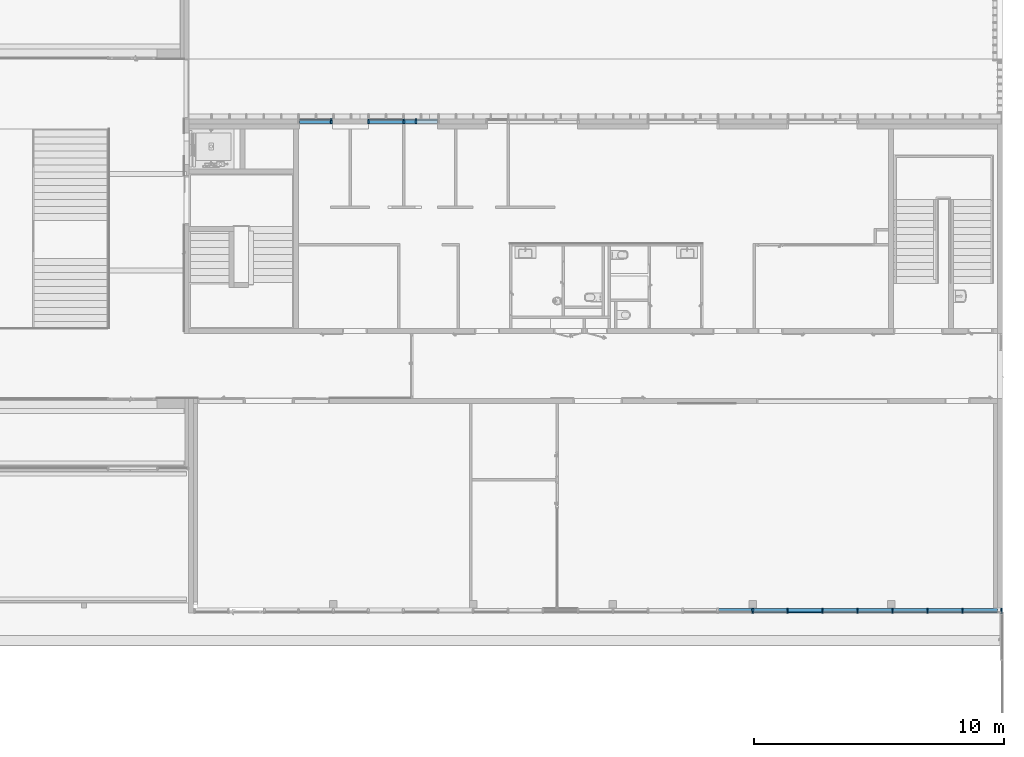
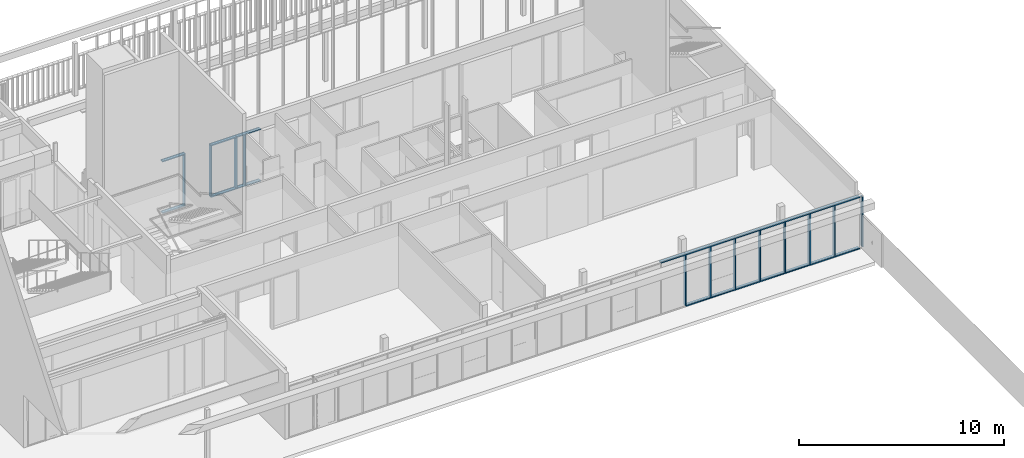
# One storey, part 26 of 240: 33 members, 3 elements without a shape of their own.
"""IFC2X3 building model written with IfcOpenShell, lengths in centimetres."""

from ifc_helpers import new_model, entity, si_unit, converted_unit, derived_unit, direction, frame, origin, place, context, subcontext, project, spatial, polyline, outline, extrude, source, transform, mapped, material, type_object, type_shapes, element, aggregate, save


model = new_model("IFC2X3")

# Units and contexts
model_context = context("Model", 3, precision=0.001, world=origin(), true_north=direction((6.12303176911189e-17, 1.0)))
body_context = subcontext(model_context, "Body", "Model", "MODEL_VIEW")
ifc_project = project(units=[si_unit("LENGTHUNIT", "METRE", prefix="CENTI"), si_unit("AREAUNIT", "SQUARE_METRE"), si_unit("VOLUMEUNIT", "CUBIC_METRE"), converted_unit("PLANEANGLEUNIT", "DEGREE", entity("IfcRatioMeasure", 0.0174532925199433), si_unit("PLANEANGLEUNIT", "RADIAN"), dimensions=[0, 0, 0, 0, 0, 0, 0]), si_unit("MASSUNIT", "GRAM", prefix="KILO"), derived_unit("MASSDENSITYUNIT", [(si_unit("MASSUNIT", "GRAM", prefix="KILO"), 1), (si_unit("LENGTHUNIT", "METRE"), -3)]), si_unit("TIMEUNIT", "SECOND"), si_unit("FREQUENCYUNIT", "HERTZ"), si_unit("THERMODYNAMICTEMPERATUREUNIT", "DEGREE_CELSIUS"), derived_unit("THERMALTRANSMITTANCEUNIT", [(si_unit("MASSUNIT", "GRAM", prefix="KILO"), 1), (si_unit("THERMODYNAMICTEMPERATUREUNIT", "KELVIN"), -1), (si_unit("TIMEUNIT", "SECOND"), -3)]), derived_unit("VOLUMETRICFLOWRATEUNIT", [(si_unit("LENGTHUNIT", "METRE"), 3), (si_unit("TIMEUNIT", "SECOND"), -1)]), si_unit("ELECTRICCURRENTUNIT", "AMPERE"), si_unit("ELECTRICVOLTAGEUNIT", "VOLT"), si_unit("POWERUNIT", "WATT"), si_unit("FORCEUNIT", "NEWTON", prefix="KILO"), si_unit("ILLUMINANCEUNIT", "LUX"), si_unit("LUMINOUSFLUXUNIT", "LUMEN"), si_unit("LUMINOUSINTENSITYUNIT", "CANDELA"), derived_unit("USERDEFINED", [(si_unit("MASSUNIT", "GRAM", prefix="KILO"), -1), (si_unit("LENGTHUNIT", "METRE"), -2), (si_unit("TIMEUNIT", "SECOND"), 3), (si_unit("LUMINOUSFLUXUNIT", "LUMEN"), 1)]), derived_unit("LINEARVELOCITYUNIT", [(si_unit("LENGTHUNIT", "METRE"), 1), (si_unit("TIMEUNIT", "SECOND"), -1)]), si_unit("PRESSUREUNIT", "PASCAL"), derived_unit("USERDEFINED", [(si_unit("LENGTHUNIT", "METRE"), -2), (si_unit("MASSUNIT", "GRAM", prefix="KILO"), 1), (si_unit("TIMEUNIT", "SECOND"), -2)])], contexts=[model_context])

# Site, building, storey
site_placement = place(None, frame((-2781.94577612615, 7442.24238424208, 0.0)))
site = spatial("IfcSite", under=ifc_project, at=site_placement, Name="Default", CompositionType="ELEMENT")
building_placement = place(site_placement, origin())
building = spatial("IfcBuilding", under=site, at=building_placement, CompositionType="ELEMENT")
storey_placement = place(building_placement, origin())
storey = spatial("IfcBuildingStorey", under=building, at=storey_placement, Name="N00 - COO", CompositionType="ELEMENT", Elevation=0.0)

# Curtain wall, members
curtain_wall_type_1 = type_object("IfcCurtainWallType", Name="Mur-rideau:07 - mur rideau trame 140 cm", PredefinedType="NOTDEFINED")
curtain_wall_1_placement = place(building_placement, origin())
curtain_wall_1 = element("IfcCurtainWall", 1, at=curtain_wall_1_placement, inside=storey, type_object=curtain_wall_type_1, Name="Mur-rideau:07 - mur rideau trame 140 cm", ObjectType="Mur-rideau:07 - mur rideau trame 140 cm")
ifc_material = material(Name="Aluminium")
member_type_1 = type_object("IfcMemberType", Name="150 x 25mm Détails", PredefinedType="MEMBER")
shared_shape_1 = source(origin(), body_context, "Body", "SweptSolid", [
    extrude(outline(polyline([(-5.6666666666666, -3.24999999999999), (-3.66666666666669, -3.24999999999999), (-3.66666666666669, -0.868749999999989), (-0.166666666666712, -0.868749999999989), (-0.166666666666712, -3.25000000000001), (13.3333333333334, -3.25000000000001), (13.3333333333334, 3.24999999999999), (-0.16666666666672, 3.24999999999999), (-0.16666666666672, 0.868749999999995), (-3.66666666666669, 0.868749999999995), (-3.66666666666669, 3.25), (-5.6666666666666, 3.25), (-5.6666666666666, -3.24999999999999)])), frame((-3.24999999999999, -1.96666666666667, -299.5), z_axis=(0.0, 0.0, 1.0), x_axis=(0.0, -1.0, 0.0)), (0.0, 0.0, 1.0), 299.5),
])
type_shapes(member_type_1, [shared_shape_1])
member_1_placement = place(building_placement, frame((-390.499882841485, -3046.51349958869, 6.49999999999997), z_axis=(0.0, 0.0, -1.0), x_axis=(1.0, 0.0, 0.0)))
member_1 = element("IfcMember", 2, at=member_1_placement, type_object=member_type_1, material=ifc_material, Name="Meneau rectangulaire:150 x 25mm Détails", ObjectType="Meneau rectangulaire:150 x 25mm Détails", context=body_context, shape_type="MappedRepresentation", body=[
    mapped(shared_shape_1, transform((0.0, 0.0, 0.0), scale=1.0)),
])
member_type_2 = type_object("IfcMemberType", Name="150 x 25mm Détails", PredefinedType="MEMBER")
shared_shape_2 = source(origin(), body_context, "Body", "SweptSolid", [
    extrude(outline(polyline([(-5.6666666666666, -3.24999999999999), (-3.66666666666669, -3.24999999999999), (-3.66666666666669, -0.868749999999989), (-0.166666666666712, -0.868749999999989), (-0.166666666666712, -3.25000000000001), (13.3333333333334, -3.25000000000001), (13.3333333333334, 3.24999999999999), (-0.16666666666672, 3.24999999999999), (-0.16666666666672, 0.868749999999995), (-3.66666666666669, 0.868749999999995), (-3.66666666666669, 3.25), (-5.6666666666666, 3.25), (-5.6666666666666, -3.24999999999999)])), frame((-3.24999999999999, -1.96666666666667, -140.0), z_axis=(0.0, 0.0, 1.0), x_axis=(0.0, -1.0, 0.0)), (0.0, 0.0, 1.0), 140.000000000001),
])
type_shapes(member_type_2, [shared_shape_2])
member_2_placement = place(building_placement, frame((-1390.299882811, -3046.51349958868, 312.5), z_axis=(1.0, 0.0, 0.0), x_axis=(0.0, 0.0, 1.0)))
member_2 = element("IfcMember", 3, at=member_2_placement, type_object=member_type_2, material=ifc_material, Name="Meneau rectangulaire:150 x 25mm Détails", ObjectType="Meneau rectangulaire:150 x 25mm Détails", context=body_context, shape_type="MappedRepresentation", body=[
    mapped(shared_shape_2, transform((0.0, 0.0, 0.0), scale=1.0)),
])
member_3_placement = place(building_placement, frame((-1110.299882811, -3046.51349958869, 312.5), z_axis=(1.0, 0.0, 0.0), x_axis=(0.0, 0.0, 1.0)))
member_3 = element("IfcMember", 4, at=member_3_placement, type_object=member_type_2, material=ifc_material, Name="Meneau rectangulaire:150 x 25mm Détails", ObjectType="Meneau rectangulaire:150 x 25mm Détails", context=body_context, shape_type="MappedRepresentation", body=[
    mapped(shared_shape_2, transform((0.0, 0.0, 0.0), scale=1.0)),
])
member_4_placement = place(building_placement, frame((-830.299882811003, -3046.51349958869, 312.5), z_axis=(1.0, 0.0, 0.0), x_axis=(0.0, 0.0, 1.0)))
member_4 = element("IfcMember", 5, at=member_4_placement, type_object=member_type_2, material=ifc_material, Name="Meneau rectangulaire:150 x 25mm Détails", ObjectType="Meneau rectangulaire:150 x 25mm Détails", context=body_context, shape_type="MappedRepresentation", body=[
    mapped(shared_shape_2, transform((0.0, 0.0, 0.0), scale=1.0)),
])
member_5_placement = place(building_placement, frame((-690.299882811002, -3046.51349958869, 312.5), z_axis=(1.0, 0.0, 0.0), x_axis=(0.0, 0.0, 1.0)))
member_5 = element("IfcMember", 6, at=member_5_placement, type_object=member_type_2, material=ifc_material, Name="Meneau rectangulaire:150 x 25mm Détails", ObjectType="Meneau rectangulaire:150 x 25mm Détails", context=body_context, shape_type="MappedRepresentation", body=[
    mapped(shared_shape_2, transform((0.0, 0.0, 0.0), scale=1.0)),
])
member_6_placement = place(building_placement, frame((-550.299882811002, -3046.51349958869, 312.5), z_axis=(1.0, 0.0, 0.0), x_axis=(0.0, 0.0, 1.0)))
member_6 = element("IfcMember", 7, at=member_6_placement, type_object=member_type_2, material=ifc_material, Name="Meneau rectangulaire:150 x 25mm Détails", ObjectType="Meneau rectangulaire:150 x 25mm Détails", context=body_context, shape_type="MappedRepresentation", body=[
    mapped(shared_shape_2, transform((0.0, 0.0, 0.0), scale=1.0)),
])
member_7_placement = place(building_placement, frame((-1250.299882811, -3046.51349958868, 312.5), z_axis=(1.0, 0.0, 0.0), x_axis=(0.0, 0.0, 1.0)))
member_7 = element("IfcMember", 8, at=member_7_placement, type_object=member_type_2, material=ifc_material, Name="Meneau rectangulaire:150 x 25mm Détails", ObjectType="Meneau rectangulaire:150 x 25mm Détails", context=body_context, shape_type="MappedRepresentation", body=[
    mapped(shared_shape_2, transform((0.0, 0.0, 0.0), scale=1.0)),
])
member_8_placement = place(building_placement, frame((-970.299882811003, -3046.51349958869, 312.5), z_axis=(1.0, 0.0, 0.0), x_axis=(0.0, 0.0, 1.0)))
member_8 = element("IfcMember", 9, at=member_8_placement, type_object=member_type_2, material=ifc_material, Name="Meneau rectangulaire:150 x 25mm Détails", ObjectType="Meneau rectangulaire:150 x 25mm Détails", context=body_context, shape_type="MappedRepresentation", body=[
    mapped(shared_shape_2, transform((0.0, 0.0, 0.0), scale=1.0)),
])
member_type_3 = type_object("IfcMemberType", Name="150 x 25mm Détails", PredefinedType="MEMBER")
shared_shape_3 = source(origin(), body_context, "Body", "SweptSolid", [
    extrude(outline(polyline([(-5.66666666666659, -3.25), (-3.66666666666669, -3.25), (-3.66666666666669, -0.868749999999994), (-0.166666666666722, -0.868749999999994), (-0.166666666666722, -3.25000000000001), (13.3333333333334, -3.24999999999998), (13.3333333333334, 3.25000000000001), (-0.166666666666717, 3.25000000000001), (-0.166666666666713, 0.868749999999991), (-3.66666666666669, 0.868749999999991), (-3.66666666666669, 3.24999999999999), (-5.66666666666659, 3.24999999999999), (-5.66666666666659, -3.25)])), frame((-3.24999999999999, -1.96666666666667, -140.0), z_axis=(0.0, 0.0, 1.0), x_axis=(0.0, -1.0, 0.0)), (0.0, 0.0, 1.0), 140.000000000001),
])
type_shapes(member_type_3, [shared_shape_3])
member_9_placement = place(building_placement, frame((-1390.299882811, -3046.51349958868, 0.0), z_axis=(-1.0, 0.0, 0.0), x_axis=(0.0, 0.0, -1.0)))
member_9 = element("IfcMember", 10, at=member_9_placement, type_object=member_type_3, material=ifc_material, Name="Meneau rectangulaire:150 x 25mm Détails", ObjectType="Meneau rectangulaire:150 x 25mm Détails", context=body_context, shape_type="MappedRepresentation", body=[
    mapped(shared_shape_3, transform((0.0, 0.0, 0.0), scale=1.0)),
])
member_10_placement = place(building_placement, frame((-1110.299882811, -3046.51349958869, 0.0), z_axis=(-1.0, 0.0, 0.0), x_axis=(0.0, 0.0, -1.0)))
member_10 = element("IfcMember", 11, at=member_10_placement, type_object=member_type_3, material=ifc_material, Name="Meneau rectangulaire:150 x 25mm Détails", ObjectType="Meneau rectangulaire:150 x 25mm Détails", context=body_context, shape_type="MappedRepresentation", body=[
    mapped(shared_shape_3, transform((0.0, 0.0, 0.0), scale=1.0)),
])
member_11_placement = place(building_placement, frame((-830.299882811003, -3046.51349958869, 0.0), z_axis=(-1.0, 0.0, 0.0), x_axis=(0.0, 0.0, -1.0)))
member_11 = element("IfcMember", 12, at=member_11_placement, type_object=member_type_3, material=ifc_material, Name="Meneau rectangulaire:150 x 25mm Détails", ObjectType="Meneau rectangulaire:150 x 25mm Détails", context=body_context, shape_type="MappedRepresentation", body=[
    mapped(shared_shape_3, transform((0.0, 0.0, 0.0), scale=1.0)),
])
member_12_placement = place(building_placement, frame((-690.299882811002, -3046.51349958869, 0.0), z_axis=(-1.0, 0.0, 0.0), x_axis=(0.0, 0.0, -1.0)))
member_12 = element("IfcMember", 13, at=member_12_placement, type_object=member_type_3, material=ifc_material, Name="Meneau rectangulaire:150 x 25mm Détails", ObjectType="Meneau rectangulaire:150 x 25mm Détails", context=body_context, shape_type="MappedRepresentation", body=[
    mapped(shared_shape_3, transform((0.0, 0.0, 0.0), scale=1.0)),
])
member_13_placement = place(building_placement, frame((-1250.299882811, -3046.51349958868, 0.0), z_axis=(-1.0, 0.0, 0.0), x_axis=(0.0, 0.0, -1.0)))
member_13 = element("IfcMember", 14, at=member_13_placement, type_object=member_type_3, material=ifc_material, Name="Meneau rectangulaire:150 x 25mm Détails", ObjectType="Meneau rectangulaire:150 x 25mm Détails", context=body_context, shape_type="MappedRepresentation", body=[
    mapped(shared_shape_3, transform((0.0, 0.0, 0.0), scale=1.0)),
])
member_14_placement = place(building_placement, frame((-970.299882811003, -3046.51349958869, 0.0), z_axis=(-1.0, 0.0, 0.0), x_axis=(0.0, 0.0, -1.0)))
member_14 = element("IfcMember", 15, at=member_14_placement, type_object=member_type_3, material=ifc_material, Name="Meneau rectangulaire:150 x 25mm Détails", ObjectType="Meneau rectangulaire:150 x 25mm Détails", context=body_context, shape_type="MappedRepresentation", body=[
    mapped(shared_shape_3, transform((0.0, 0.0, 0.0), scale=1.0)),
])
member_type_4 = type_object("IfcMemberType", Name="150 x 25mm Détails", PredefinedType="MEMBER")
shared_shape_4 = source(origin(), body_context, "Body", "SweptSolid", [
    extrude(outline(polyline([(-5.6666666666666, -3.24999999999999), (-3.66666666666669, -3.24999999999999), (-3.66666666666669, -0.86874999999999), (-0.166666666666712, -0.86874999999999), (-0.166666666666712, -3.25000000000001), (13.3333333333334, -3.25000000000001), (13.3333333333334, 3.24999999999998), (-0.16666666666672, 3.24999999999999), (-0.16666666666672, 0.868749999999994), (-3.66666666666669, 0.868749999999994), (-3.66666666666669, 3.25), (-5.6666666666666, 3.25), (-5.6666666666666, -3.24999999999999)])), frame((0.0, -1.96666666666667, -299.5), z_axis=(0.0, 0.0, 1.0), x_axis=(0.0, -1.0, 0.0)), (0.0, 0.0, 1.0), 299.5),
])
type_shapes(member_type_4, [shared_shape_4])
member_15_placement = place(building_placement, frame((-1390.299882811, -3046.51349958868, 6.49999999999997), z_axis=(0.0, 0.0, -1.0), x_axis=(1.0, 0.0, 0.0)))
member_15 = element("IfcMember", 16, at=member_15_placement, type_object=member_type_4, material=ifc_material, Name="Meneau rectangulaire:150 x 25mm Détails", ObjectType="Meneau rectangulaire:150 x 25mm Détails", context=body_context, shape_type="MappedRepresentation", body=[
    mapped(shared_shape_4, transform((0.0, 0.0, 0.0), scale=1.0)),
])
member_16_placement = place(building_placement, frame((-1250.299882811, -3046.51349958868, 6.49999999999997), z_axis=(0.0, 0.0, -1.0), x_axis=(1.0, 0.0, 0.0)))
member_16 = element("IfcMember", 17, at=member_16_placement, type_object=member_type_4, material=ifc_material, Name="Meneau rectangulaire:150 x 25mm Détails", ObjectType="Meneau rectangulaire:150 x 25mm Détails", context=body_context, shape_type="MappedRepresentation", body=[
    mapped(shared_shape_4, transform((0.0, 0.0, 0.0), scale=1.0)),
])
member_17_placement = place(building_placement, frame((-1110.299882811, -3046.51349958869, 6.49999999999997), z_axis=(0.0, 0.0, -1.0), x_axis=(1.0, 0.0, 0.0)))
member_17 = element("IfcMember", 18, at=member_17_placement, type_object=member_type_4, material=ifc_material, Name="Meneau rectangulaire:150 x 25mm Détails", ObjectType="Meneau rectangulaire:150 x 25mm Détails", context=body_context, shape_type="MappedRepresentation", body=[
    mapped(shared_shape_4, transform((0.0, 0.0, 0.0), scale=1.0)),
])
member_18_placement = place(building_placement, frame((-970.299882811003, -3046.51349958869, 6.49999999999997), z_axis=(0.0, 0.0, -1.0), x_axis=(1.0, 0.0, 0.0)))
member_18 = element("IfcMember", 19, at=member_18_placement, type_object=member_type_4, material=ifc_material, Name="Meneau rectangulaire:150 x 25mm Détails", ObjectType="Meneau rectangulaire:150 x 25mm Détails", context=body_context, shape_type="MappedRepresentation", body=[
    mapped(shared_shape_4, transform((0.0, 0.0, 0.0), scale=1.0)),
])
member_19_placement = place(building_placement, frame((-830.299882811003, -3046.51349958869, 6.49999999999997), z_axis=(0.0, 0.0, -1.0), x_axis=(1.0, 0.0, 0.0)))
member_19 = element("IfcMember", 20, at=member_19_placement, type_object=member_type_4, material=ifc_material, Name="Meneau rectangulaire:150 x 25mm Détails", ObjectType="Meneau rectangulaire:150 x 25mm Détails", context=body_context, shape_type="MappedRepresentation", body=[
    mapped(shared_shape_4, transform((0.0, 0.0, 0.0), scale=1.0)),
])
member_20_placement = place(building_placement, frame((-690.299882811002, -3046.51349958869, 6.49999999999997), z_axis=(0.0, 0.0, -1.0), x_axis=(1.0, 0.0, 0.0)))
member_20 = element("IfcMember", 21, at=member_20_placement, type_object=member_type_4, material=ifc_material, Name="Meneau rectangulaire:150 x 25mm Détails", ObjectType="Meneau rectangulaire:150 x 25mm Détails", context=body_context, shape_type="MappedRepresentation", body=[
    mapped(shared_shape_4, transform((0.0, 0.0, 0.0), scale=1.0)),
])
member_21_placement = place(building_placement, frame((-550.299882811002, -3046.51349958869, 6.49999999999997), z_axis=(0.0, 0.0, -1.0), x_axis=(1.0, 0.0, 0.0)))
member_21 = element("IfcMember", 22, at=member_21_placement, type_object=member_type_4, material=ifc_material, Name="Meneau rectangulaire:150 x 25mm Détails", ObjectType="Meneau rectangulaire:150 x 25mm Détails", context=body_context, shape_type="MappedRepresentation", body=[
    mapped(shared_shape_4, transform((0.0, 0.0, 0.0), scale=1.0)),
])

curtain_wall_type_2 = type_object("IfcCurtainWallType", Name="Mur-rideau:07 - mur rideau trame 280 cm", PredefinedType="NOTDEFINED")
curtain_wall_2_placement = place(building_placement, origin())
curtain_wall_2 = element("IfcCurtainWall", 23, at=curtain_wall_2_placement, inside=storey, type_object=curtain_wall_type_2, Name="Mur-rideau:07 - mur rideau trame 280 cm", ObjectType="Mur-rideau:07 - mur rideau trame 280 cm")
member_type_5 = type_object("IfcMemberType", Name="150 x 25mm Détails", PredefinedType="MEMBER")
shared_shape_5 = source(origin(), body_context, "Body", "SweptSolid", [
    extrude(outline(polyline([(-13.3333333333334, -3.24999999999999), (0.166666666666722, -3.24999999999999), (0.166666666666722, -0.868749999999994), (3.66666666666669, -0.868749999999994), (3.66666666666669, -3.25), (5.66666666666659, -3.25), (5.66666666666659, 3.24999999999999), (3.66666666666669, 3.24999999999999), (3.66666666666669, 0.86874999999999), (0.166666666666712, 0.86874999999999), (0.166666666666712, 3.25000000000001), (-13.3333333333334, 3.25000000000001), (-13.3333333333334, -3.24999999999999)])), frame((-3.24999999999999, 1.96666666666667, -124.249999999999), z_axis=(0.0, 0.0, 1.0), x_axis=(0.0, -1.0, 0.0)), (0.0, 0.0, 1.0), 124.249999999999),
])
type_shapes(member_type_5, [shared_shape_5])
member_22_placement = place(building_placement, frame((-3206.04988284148, -1073.7999999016, 0.0), z_axis=(-1.0, 0.0, 0.0), x_axis=(0.0, 0.0, -1.0)))
member_22 = element("IfcMember", 24, at=member_22_placement, type_object=member_type_5, material=ifc_material, Name="Meneau rectangulaire:150 x 25mm Détails", ObjectType="Meneau rectangulaire:150 x 25mm Détails", context=body_context, shape_type="MappedRepresentation", body=[
    mapped(shared_shape_5, transform((0.0, 0.0, 0.0), scale=1.0)),
])
member_type_6 = type_object("IfcMemberType", Name="150 x 25mm Détails", PredefinedType="MEMBER")
shared_shape_6 = source(origin(), body_context, "Body", "SweptSolid", [
    extrude(outline(polyline([(-13.3333333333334, -3.25000000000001), (0.166666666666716, -3.25000000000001), (0.166666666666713, -0.86874999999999), (3.66666666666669, -0.86874999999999), (3.66666666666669, -3.24999999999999), (5.66666666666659, -3.24999999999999), (5.66666666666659, 3.25), (3.66666666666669, 3.25), (3.66666666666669, 0.868749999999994), (0.166666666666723, 0.868749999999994), (0.166666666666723, 3.25000000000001), (-13.3333333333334, 3.24999999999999), (-13.3333333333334, -3.25000000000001)])), frame((-3.24999999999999, 1.96666666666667, -312.5), z_axis=(0.0, 0.0, 1.0), x_axis=(0.0, -1.0, 0.0)), (0.0, 0.0, 1.0), 312.5),
])
type_shapes(member_type_6, [shared_shape_6])
member_23_placement = place(building_placement, frame((-3075.29988284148, -1073.7999999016, 0.0), z_axis=(0.0, 0.0, -1.0), x_axis=(1.0, 0.0, 0.0)))
member_23 = element("IfcMember", 25, at=member_23_placement, type_object=member_type_6, material=ifc_material, Name="Meneau rectangulaire:150 x 25mm Détails", ObjectType="Meneau rectangulaire:150 x 25mm Détails", context=body_context, shape_type="MappedRepresentation", body=[
    mapped(shared_shape_6, transform((0.0, 0.0, 0.0), scale=1.0)),
])
member_type_7 = type_object("IfcMemberType", Name="150 x 25mm Détails", PredefinedType="MEMBER")
shared_shape_7 = source(origin(), body_context, "Body", "SweptSolid", [
    extrude(outline(polyline([(-13.3333333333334, -3.25000000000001), (0.166666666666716, -3.25000000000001), (0.166666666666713, -0.86874999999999), (3.66666666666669, -0.86874999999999), (3.66666666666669, -3.24999999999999), (5.66666666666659, -3.24999999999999), (5.66666666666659, 3.25), (3.66666666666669, 3.25), (3.66666666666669, 0.868749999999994), (0.166666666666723, 0.868749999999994), (0.166666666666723, 3.25000000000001), (-13.3333333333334, 3.24999999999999), (-13.3333333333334, -3.25000000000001)])), frame((-3.24999999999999, 1.96666666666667, -124.249999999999), z_axis=(0.0, 0.0, 1.0), x_axis=(0.0, -1.0, 0.0)), (0.0, 0.0, 1.0), 124.249999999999),
])
type_shapes(member_type_7, [shared_shape_7])
member_24_placement = place(building_placement, frame((-3081.79988284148, -1073.7999999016, 312.5), z_axis=(1.0, 0.0, 0.0), x_axis=(0.0, 0.0, 1.0)))
member_24 = element("IfcMember", 26, at=member_24_placement, type_object=member_type_7, material=ifc_material, Name="Meneau rectangulaire:150 x 25mm Détails", ObjectType="Meneau rectangulaire:150 x 25mm Détails", context=body_context, shape_type="MappedRepresentation", body=[
    mapped(shared_shape_7, transform((0.0, 0.0, 0.0), scale=1.0)),
])
aggregate(curtain_wall_2, [member_22, member_23, member_24])

curtain_wall_3_placement = place(building_placement, origin())
curtain_wall_3 = element("IfcCurtainWall", 27, at=curtain_wall_3_placement, inside=storey, type_object=curtain_wall_type_2, Name="Mur-rideau:07 - mur rideau trame 280 cm", ObjectType="Mur-rideau:07 - mur rideau trame 280 cm")
member_type_8 = type_object("IfcMemberType", Name="150 x 25mm Détails", PredefinedType="MEMBER")
shared_shape_8 = source(origin(), body_context, "Body", "SweptSolid", [
    extrude(outline(polyline([(-13.3333333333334, -3.24999999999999), (0.166666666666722, -3.24999999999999), (0.166666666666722, -0.868749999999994), (3.66666666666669, -0.868749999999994), (3.66666666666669, -3.25), (5.66666666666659, -3.25), (5.66666666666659, 3.24999999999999), (3.66666666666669, 3.24999999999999), (3.66666666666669, 0.86874999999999), (0.166666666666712, 0.86874999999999), (0.166666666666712, 3.25000000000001), (-13.3333333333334, 3.25000000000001), (-13.3333333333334, -3.24999999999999)])), frame((-3.24999999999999, 1.96666666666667, -144.249996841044), z_axis=(0.0, 0.0, 1.0), x_axis=(0.0, -1.0, 0.0)), (0.0, 0.0, 1.0), 144.249996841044),
])
type_shapes(member_type_8, [shared_shape_8])
member_25_placement = place(building_placement, frame((-2932.54988284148, -1073.7999999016, 0.0), z_axis=(-1.0, 0.0, 0.0), x_axis=(0.0, 0.0, -1.0)))
member_25 = element("IfcMember", 28, at=member_25_placement, type_object=member_type_8, material=ifc_material, Name="Meneau rectangulaire:150 x 25mm Détails", ObjectType="Meneau rectangulaire:150 x 25mm Détails", context=body_context, shape_type="MappedRepresentation", body=[
    mapped(shared_shape_8, transform((0.0, 0.0, 0.0), scale=1.0)),
])
member_type_9 = type_object("IfcMemberType", Name="150 x 25mm Détails", PredefinedType="MEMBER")
shared_shape_9 = source(origin(), body_context, "Body", "SweptSolid", [
    extrude(outline(polyline([(-13.3333333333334, -3.24999999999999), (0.166666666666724, -3.24999999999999), (0.166666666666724, -0.868749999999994), (3.66666666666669, -0.868749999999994), (3.66666666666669, -3.25), (5.6666666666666, -3.25), (5.6666666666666, 3.24999999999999), (3.66666666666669, 3.24999999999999), (3.66666666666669, 0.86874999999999), (0.166666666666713, 0.86874999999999), (0.166666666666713, 3.25000000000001), (-13.3333333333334, 3.25000000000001), (-13.3333333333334, -3.24999999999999)])), frame((-3.24999999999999, 1.96666666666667, -299.5), z_axis=(0.0, 0.0, 1.0), x_axis=(0.0, -1.0, 0.0)), (0.0, 0.0, 1.0), 299.5),
])
type_shapes(member_type_9, [shared_shape_9])
member_26_placement = place(building_placement, frame((-2932.54988284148, -1073.7999999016, 306.0), z_axis=(0.0, 0.0, 1.0), x_axis=(-1.0, 0.0, 0.0)))
member_26 = element("IfcMember", 29, at=member_26_placement, type_object=member_type_9, material=ifc_material, Name="Meneau rectangulaire:150 x 25mm Détails", ObjectType="Meneau rectangulaire:150 x 25mm Détails", context=body_context, shape_type="MappedRepresentation", body=[
    mapped(shared_shape_9, transform((0.0, 0.0, 0.0), scale=1.0)),
])
member_type_10 = type_object("IfcMemberType", Name="150 x 25mm Détails", PredefinedType="MEMBER")
shared_shape_10 = source(origin(), body_context, "Body", "SweptSolid", [
    extrude(outline(polyline([(-13.3333333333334, -3.24999999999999), (0.166666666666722, -3.24999999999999), (0.166666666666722, -0.868749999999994), (3.66666666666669, -0.868749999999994), (3.66666666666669, -3.25), (5.66666666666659, -3.25), (5.66666666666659, 3.24999999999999), (3.66666666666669, 3.24999999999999), (3.66666666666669, 0.86874999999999), (0.166666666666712, 0.86874999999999), (0.166666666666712, 3.25000000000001), (-13.3333333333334, 3.25000000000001), (-13.3333333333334, -3.24999999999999)])), frame((-3.24999999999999, 1.96666666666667, -135.750003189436), z_axis=(0.0, 0.0, 1.0), x_axis=(0.0, -1.0, 0.0)), (0.0, 0.0, 1.0), 135.750003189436),
])
type_shapes(member_type_10, [shared_shape_10])
member_27_placement = place(building_placement, frame((-2788.29988600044, -1073.7999999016, 0.0), z_axis=(-1.0, 0.0, 0.0), x_axis=(0.0, 0.0, -1.0)))
member_27 = element("IfcMember", 30, at=member_27_placement, type_object=member_type_10, material=ifc_material, Name="Meneau rectangulaire:150 x 25mm Détails", ObjectType="Meneau rectangulaire:150 x 25mm Détails", context=body_context, shape_type="MappedRepresentation", body=[
    mapped(shared_shape_10, transform((0.0, 0.0, 0.0), scale=1.0)),
])
member_type_11 = type_object("IfcMemberType", Name="150 x 25mm Détails", PredefinedType="MEMBER")
shared_shape_11 = source(origin(), body_context, "Body", "SweptSolid", [
    extrude(outline(polyline([(-13.3333333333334, -3.25000000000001), (0.166666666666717, -3.25000000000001), (0.166666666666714, -0.86874999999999), (3.66666666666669, -0.86874999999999), (3.66666666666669, -3.24999999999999), (5.6666666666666, -3.24999999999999), (5.6666666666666, 3.25), (3.66666666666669, 3.25), (3.66666666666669, 0.868749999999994), (0.166666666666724, 0.868749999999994), (0.166666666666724, 3.25000000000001), (-13.3333333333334, 3.24999999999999), (-13.3333333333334, -3.25000000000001)])), frame((0.0, 1.96666666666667, -299.5), z_axis=(0.0, 0.0, 1.0), x_axis=(0.0, -1.0, 0.0)), (0.0, 0.0, 1.0), 299.5),
])
type_shapes(member_type_11, [shared_shape_11])
member_28_placement = place(building_placement, frame((-2788.29988600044, -1073.7999999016, 6.49999999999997), z_axis=(0.0, 0.0, -1.0), x_axis=(1.0, 0.0, 0.0)))
member_28 = element("IfcMember", 31, at=member_28_placement, type_object=member_type_11, material=ifc_material, Name="Meneau rectangulaire:150 x 25mm Détails", ObjectType="Meneau rectangulaire:150 x 25mm Détails", context=body_context, shape_type="MappedRepresentation", body=[
    mapped(shared_shape_11, transform((0.0, 0.0, 0.0), scale=1.0)),
])
member_type_12 = type_object("IfcMemberType", Name="150 x 25mm Détails", PredefinedType="MEMBER")
shared_shape_12 = source(origin(), body_context, "Body", "SweptSolid", [
    extrude(outline(polyline([(-13.3333333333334, -3.25000000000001), (0.166666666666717, -3.25000000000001), (0.166666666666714, -0.86874999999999), (3.66666666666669, -0.86874999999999), (3.66666666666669, -3.24999999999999), (5.6666666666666, -3.24999999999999), (5.6666666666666, 3.25), (3.66666666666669, 3.25), (3.66666666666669, 0.868749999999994), (0.166666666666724, 0.868749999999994), (0.166666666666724, 3.25000000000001), (-13.3333333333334, 3.24999999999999), (-13.3333333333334, -3.25000000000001)])), frame((-3.24999999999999, 1.96666666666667, -299.5), z_axis=(0.0, 0.0, 1.0), x_axis=(0.0, -1.0, 0.0)), (0.0, 0.0, 1.0), 299.5),
])
type_shapes(member_type_12, [shared_shape_12])
member_29_placement = place(building_placement, frame((-2736.04988284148, -1073.7999999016, 6.49999999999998), z_axis=(0.0, 0.0, -1.0), x_axis=(1.0, 0.0, 0.0)))
member_29 = element("IfcMember", 32, at=member_29_placement, type_object=member_type_12, material=ifc_material, Name="Meneau rectangulaire:150 x 25mm Détails", ObjectType="Meneau rectangulaire:150 x 25mm Détails", context=body_context, shape_type="MappedRepresentation", body=[
    mapped(shared_shape_12, transform((0.0, 0.0, 0.0), scale=1.0)),
])
member_type_13 = type_object("IfcMemberType", Name="150 x 25mm Détails", PredefinedType="MEMBER")
shared_shape_13 = source(origin(), body_context, "Body", "SweptSolid", [
    extrude(outline(polyline([(-13.3333333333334, -3.25000000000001), (0.166666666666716, -3.25000000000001), (0.166666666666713, -0.86874999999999), (3.66666666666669, -0.86874999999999), (3.66666666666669, -3.24999999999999), (5.66666666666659, -3.24999999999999), (5.66666666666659, 3.25), (3.66666666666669, 3.25), (3.66666666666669, 0.868749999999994), (0.166666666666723, 0.868749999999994), (0.166666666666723, 3.25000000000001), (-13.3333333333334, 3.24999999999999), (-13.3333333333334, -3.25000000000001)])), frame((-3.24999999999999, 1.96666666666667, -144.249996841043), z_axis=(0.0, 0.0, 1.0), x_axis=(0.0, -1.0, 0.0)), (0.0, 0.0, 1.0), 144.249996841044),
])
type_shapes(member_type_13, [shared_shape_13])
member_30_placement = place(building_placement, frame((-2788.29988600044, -1073.7999999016, 312.5), z_axis=(1.0, 0.0, 0.0), x_axis=(0.0, 0.0, 1.0)))
member_30 = element("IfcMember", 33, at=member_30_placement, type_object=member_type_13, material=ifc_material, Name="Meneau rectangulaire:150 x 25mm Détails", ObjectType="Meneau rectangulaire:150 x 25mm Détails", context=body_context, shape_type="MappedRepresentation", body=[
    mapped(shared_shape_13, transform((0.0, 0.0, 0.0), scale=1.0)),
])
member_type_14 = type_object("IfcMemberType", Name="150 x 25mm Détails", PredefinedType="MEMBER")
shared_shape_14 = source(origin(), body_context, "Body", "SweptSolid", [
    extrude(outline(polyline([(-13.3333333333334, -3.25000000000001), (0.166666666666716, -3.25000000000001), (0.166666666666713, -0.86874999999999), (3.66666666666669, -0.86874999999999), (3.66666666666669, -3.24999999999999), (5.66666666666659, -3.24999999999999), (5.66666666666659, 3.25), (3.66666666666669, 3.25), (3.66666666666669, 0.868749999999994), (0.166666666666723, 0.868749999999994), (0.166666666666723, 3.25000000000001), (-13.3333333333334, 3.24999999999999), (-13.3333333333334, -3.25000000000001)])), frame((-3.24999999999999, 1.96666666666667, -135.750003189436), z_axis=(0.0, 0.0, 1.0), x_axis=(0.0, -1.0, 0.0)), (0.0, 0.0, 1.0), 135.750003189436),
])
type_shapes(member_type_14, [shared_shape_14])
member_31_placement = place(building_placement, frame((-2652.549882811, -1073.7999999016, 312.5), z_axis=(1.0, 0.0, 0.0), x_axis=(0.0, 0.0, 1.0)))
member_31 = element("IfcMember", 34, at=member_31_placement, type_object=member_type_14, material=ifc_material, Name="Meneau rectangulaire:150 x 25mm Détails", ObjectType="Meneau rectangulaire:150 x 25mm Détails", context=body_context, shape_type="MappedRepresentation", body=[
    mapped(shared_shape_14, transform((0.0, 0.0, 0.0), scale=1.0)),
])
aggregate(curtain_wall_3, [member_25, member_26, member_27, member_28, member_29, member_30, member_31])

# Member
member_type_15 = type_object("IfcMemberType", Name="150 x 25mm Détails", PredefinedType="MEMBER")
shared_shape_15 = source(origin(), body_context, "Body", "SweptSolid", [
    extrude(outline(polyline([(-5.66666666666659, -3.25), (-3.66666666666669, -3.25), (-3.66666666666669, -0.868749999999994), (-0.166666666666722, -0.868749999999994), (-0.166666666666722, -3.25000000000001), (13.3333333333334, -3.24999999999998), (13.3333333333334, 3.25000000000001), (-0.166666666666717, 3.25000000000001), (-0.166666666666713, 0.868749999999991), (-3.66666666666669, 0.868749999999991), (-3.66666666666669, 3.24999999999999), (-5.66666666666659, 3.24999999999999), (-5.66666666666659, -3.25)])), frame((-3.24999999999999, -1.96666666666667, -140.0), z_axis=(0.0, 0.0, 1.0), x_axis=(0.0, -1.0, 0.0)), (0.0, 0.0, 1.0), 140.000000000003),
])
type_shapes(member_type_15, [shared_shape_15])
member_32_placement = place(building_placement, frame((-550.299882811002, -3046.51349958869, 0.0), z_axis=(-1.0, 0.0, 0.0), x_axis=(0.0, 0.0, -1.0)))
member_32 = element("IfcMember", 35, at=member_32_placement, type_object=member_type_15, material=ifc_material, Name="Meneau rectangulaire:150 x 25mm Détails", ObjectType="Meneau rectangulaire:150 x 25mm Détails", context=body_context, shape_type="MappedRepresentation", body=[
    mapped(shared_shape_15, transform((0.0, 0.0, 0.0), scale=1.0)),
])

member_type_16 = type_object("IfcMemberType", Name="150 x 25mm Détails", PredefinedType="MEMBER")
shared_shape_16 = source(origin(), body_context, "Body", "SweptSolid", [
    extrude(outline(polyline([(-5.6666666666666, -3.24999999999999), (-3.66666666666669, -3.24999999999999), (-3.66666666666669, -0.868749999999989), (-0.166666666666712, -0.868749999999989), (-0.166666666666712, -3.25000000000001), (13.3333333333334, -3.25000000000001), (13.3333333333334, 3.24999999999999), (-0.16666666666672, 3.24999999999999), (-0.16666666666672, 0.868749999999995), (-3.66666666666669, 0.868749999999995), (-3.66666666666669, 3.25), (-5.6666666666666, 3.25), (-5.6666666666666, -3.24999999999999)])), frame((-3.24999999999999, -1.96666666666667, -140.0), z_axis=(0.0, 0.0, 1.0), x_axis=(0.0, -1.0, 0.0)), (0.0, 0.0, 1.0), 139.999999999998),
])
type_shapes(member_type_16, [shared_shape_16])
member_33_placement = place(building_placement, frame((-410.299882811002, -3046.51349958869, 312.5), z_axis=(1.0, 0.0, 0.0), x_axis=(0.0, 0.0, 1.0)))
member_33 = element("IfcMember", 36, at=member_33_placement, type_object=member_type_16, material=ifc_material, Name="Meneau rectangulaire:150 x 25mm Détails", ObjectType="Meneau rectangulaire:150 x 25mm Détails", context=body_context, shape_type="MappedRepresentation", body=[
    mapped(shared_shape_16, transform((0.0, 0.0, 0.0), scale=1.0)),
])

aggregate(curtain_wall_1, [member_9, member_10, member_11, member_12, member_32, member_15, member_16, member_17, member_18, member_19, member_20, member_21, member_2, member_3, member_4, member_5, member_6, member_33, member_7, member_8, member_13, member_14, member_1])

save(model, "model.ifc")
